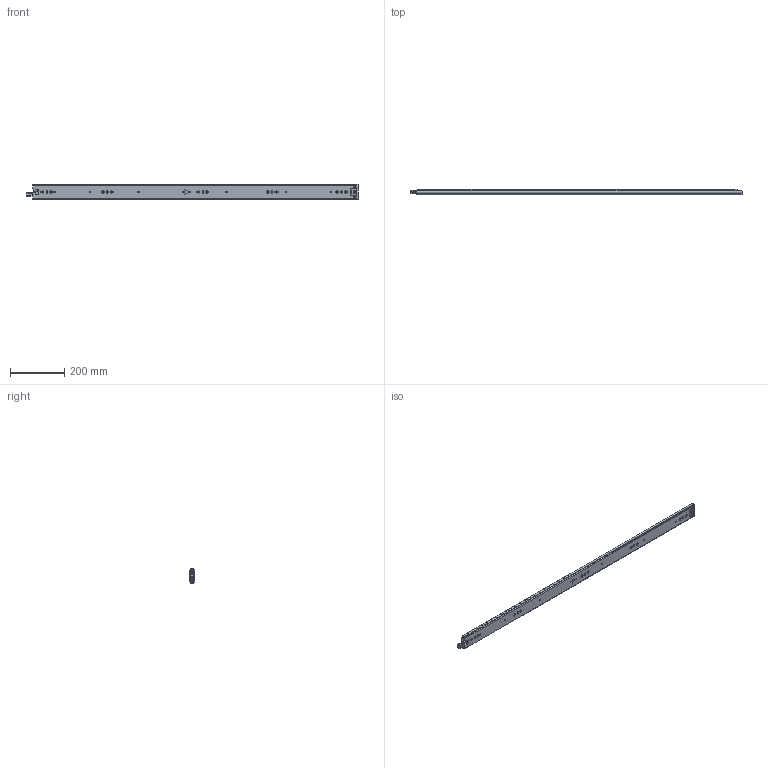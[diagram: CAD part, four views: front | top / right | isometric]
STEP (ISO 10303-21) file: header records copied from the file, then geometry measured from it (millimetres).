
FILE_DESCRIPTION((''),'2;1');
FILE_NAME('KP-57-01ZUZHUANGTU-48_ASM','2022-08-16T',('jishu015'),(''),'PRO/ENGINEER BY PARAMETRIC TECHNOLOGY CORPORATION, 2010280','PRO/ENGINEER BY PARAMETRIC TECHNOLOGY CORPORATION, 2010280','');
FILE_SCHEMA(('CONFIG_CONTROL_DESIGN'));
Products named in the file (22): KP-57-01WEIKE-18____; 1057WEIJIAO____; WAIKE___ASM; KP-57-01ZHONGGUI-18____; ZHONGGUIPEIJIAN-11__; ZHONGGUISUOKOU-11__; KP-57-01ZHONGGUI-18_____ASM; 1057XIAOZHUJIA____; 1057-5-6GANZHU____; 1057XIAOZHUJIA-14GE_____ASM; KP-57-01NEIGUI-18____; PJ-57-08__; DIAOPIAN-11__; 50XINSUOKOU-1__; TANHUANG__; 1053-3SBANJI122; JIAO11; KP-57-01NEIGUI-18_____ASM; 1053ZHUTIAO-175________; 53-5-6GANZHU________; 1053ZHUTIAO-175MM___ASM; KP-57-01ZUZHUANGTU-48_ASM
Assembly tree (130 placements, depth 3):
  KP-57-01ZUZHUANGTU-48_ASM
    WAIKE___ASM
      KP-57-01WEIKE-18____
      1057WEIJIAO____
    KP-57-01ZHONGGUI-18_____ASM
      KP-57-01ZHONGGUI-18____
      ZHONGGUIPEIJIAN-11__
      ZHONGGUISUOKOU-11__
    1057XIAOZHUJIA-14GE_____ASM
      1057XIAOZHUJIA____
      1057-5-6GANZHU____  x88
    KP-57-01NEIGUI-18_____ASM
      KP-57-01NEIGUI-18____
      PJ-57-08__
      DIAOPIAN-11__
      50XINSUOKOU-1__
      TANHUANG__
      1053-3SBANJI122
      JIAO11
    1053ZHUTIAO-175MM___ASM  x2
      1053ZHUTIAO-175________
      53-5-6GANZHU________
Bounding box: 1225.42 x 19.05 x 57.67 mm (x, y, z)
Volume: 530171.1 mm3; surface area: 579145.4 mm2
Topology: 150 solids, 150 shells, 3342 faces, 9686 edges, 6005 vertices
Faces by surface type: cylinder 1476, plane 1307, sphere 275, bspline 152, cone 86, torus 23, extrusion 23
Entity records: 106003 total; most frequent: CARTESIAN_POINT 26007, ORIENTED_EDGE 16936, DIRECTION 16501, EDGE_CURVE 8468, AXIS2_PLACEMENT_3D 5707, VERTEX_POINT 5465, VECTOR 5087, LINE 5064
